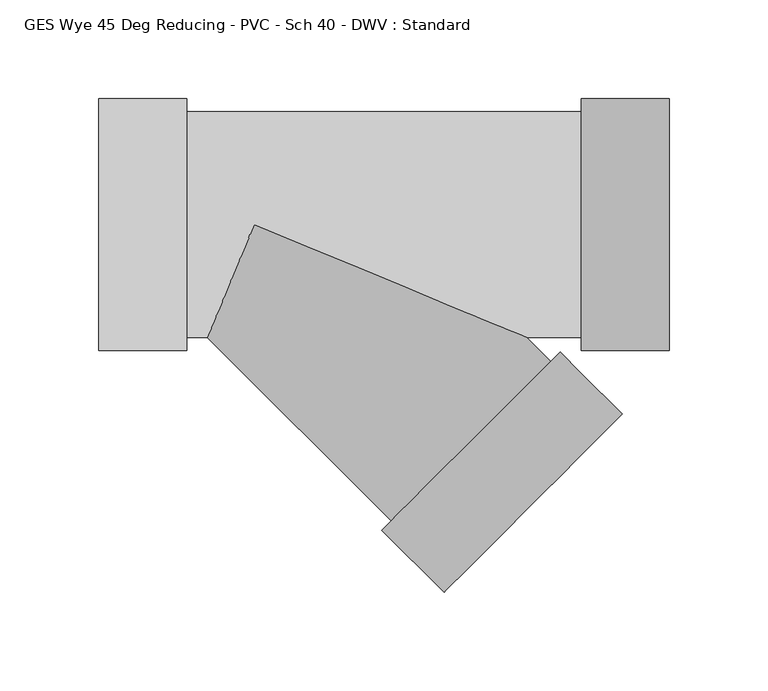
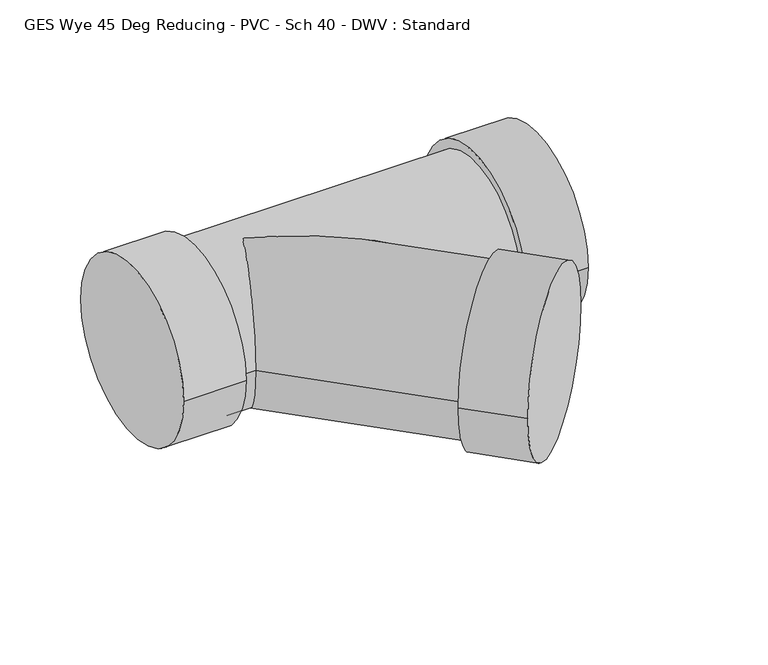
"""IFC4 building model written with IfcOpenShell, lengths in millimetres: pipe fitting geometry, GES Wye 45 Deg Reducing - PVC - Sch 40 - DWV : Standard."""

import ifcopenshell
import ifcopenshell.guid

model = None  # the IFC model being written
_history = None  # IfcOwnerHistory: only IFC2X3 demands one
_inside = {}  # id of a spatial element -> (the spatial element, [elements in it])
_under = {}  # id of a project, library or spatial element -> (it, [spatial elements below it])
_declared = {}  # id of a project -> (the project, [libraries it declares])
_typed = {}  # id of a type object -> (the type object, [elements of that type])
_made_of = {}  # id of a material, layer set ... -> (it, [elements and type objects made of it])


def new_model(schema):
    """Start an empty IFC model of exactly this schema.

    Asked for "IFC4X3", IfcOpenShell would pick the latest addendum, in which some entities
    have other attributes; the version numbers below select the first issue.
    IFC2X3 requires an IfcOwnerHistory on every rooted entity: one is made here for all.
    """
    global model, _history
    if schema == "IFC4X3":
        model = ifcopenshell.file(schema_version=(4, 3, 0, 0))
    else:
        model = ifcopenshell.file(schema=schema)
    _inside.clear()
    _under.clear()
    _declared.clear()
    _typed.clear()
    _made_of.clear()
    _history = None
    if model.schema == "IFC2X3":
        org = make("IfcOrganization", Name="unknown")
        user = make(
            "IfcPersonAndOrganization",
            ThePerson=make("IfcPerson", FamilyName="unknown"),
            TheOrganization=org,
        )
        app = make(
            "IfcApplication",
            ApplicationDeveloper=org,
            Version="unknown",
            ApplicationFullName="unknown",
            ApplicationIdentifier="unknown",
        )
        _history = make(
            "IfcOwnerHistory",
            OwningUser=user,
            OwningApplication=app,
            ChangeAction="ADDED",
            CreationDate=0,
        )
    return model


def make(cls, **values):
    """One entity of the class cls with the attributes given. An attribute that is None is left unset."""
    return model.create_entity(
        cls, **{name: value for name, value in values.items() if value is not None}
    )


def rooted(cls, **values):
    """An entity with a GlobalId (a new one), such as an element, a storey or a relation."""
    return make(cls, GlobalId=ifcopenshell.guid.new(), OwnerHistory=_history, **values)


def si_unit(unit_type, name, prefix=None):
    """IfcSIUnit, for example si_unit("LENGTHUNIT", "METRE", prefix="MILLI")."""
    return make("IfcSIUnit", UnitType=unit_type, Prefix=prefix, Name=name)


def assignment(units):
    """IfcUnitAssignment: the units of a project."""
    return None if units is None else make("IfcUnitAssignment", Units=units)


def point(xyz):
    """IfcCartesianPoint."""
    return None if xyz is None else make("IfcCartesianPoint", Coordinates=xyz)


def direction(xyz):
    """IfcDirection."""
    return None if xyz is None else make("IfcDirection", DirectionRatios=xyz)


def frame(location, z_axis=None, x_axis=None):
    """IfcAxis2Placement3D, a coordinate frame: its origin and axes. An axis left out is left unset."""
    return make(
        "IfcAxis2Placement3D",
        Location=point(location),
        Axis=direction(z_axis),
        RefDirection=direction(x_axis),
    )


def origin():
    """The frame at (0, 0, 0) with its axes left unset."""
    return frame((0.0, 0.0, 0.0))


def place(relative_to, where):
    """IfcLocalPlacement: puts the frame where relative to a parent placement (None: the world)."""
    return make(
        "IfcLocalPlacement", PlacementRelTo=relative_to, RelativePlacement=where
    )


def context(
    kind, dimensions, precision=None, world=None, true_north=None, identifier=None
):
    """IfcGeometricRepresentationContext, for example the 3D "Model" context."""
    return make(
        "IfcGeometricRepresentationContext",
        ContextIdentifier=identifier,
        ContextType=kind,
        CoordinateSpaceDimension=dimensions,
        Precision=precision,
        WorldCoordinateSystem=world,
        TrueNorth=true_north,
    )


def project(units=None, contexts=None):
    """IfcProject with its units and contexts."""
    return rooted(
        "IfcProject",
        Name="project",
        RepresentationContexts=contexts,
        UnitsInContext=assignment(units),
    )


def spatial(cls, under=None, at=None, **own):
    """A site, building, storey or space (cls), placed at a placement, below another one or the project."""
    s = rooted(cls, ObjectPlacement=at, **own)
    if under is not None:
        _under.setdefault(under.id(), (under, []))[1].append(s)
    return s


def circle_curve(where, radius):
    """IfcCircle in the frame where."""
    return make("IfcCircle", Position=where, Radius=radius)


def ellipse_curve(where, semi_axis1, semi_axis2):
    """IfcEllipse in the frame where."""
    return make(
        "IfcEllipse", Position=where, SemiAxis1=semi_axis1, SemiAxis2=semi_axis2
    )


def shape(context_of_items, identifier, shape_type, items):
    """IfcShapeRepresentation: the items that make up one representation, for example the "Body"."""
    return make(
        "IfcShapeRepresentation",
        ContextOfItems=context_of_items,
        RepresentationIdentifier=identifier,
        RepresentationType=shape_type,
        Items=items,
    )


def source(mapping_origin, context_of_items, identifier, shape_type, items):
    """IfcRepresentationMap: a shape defined once, which mapped items show again and again."""
    return make(
        "IfcRepresentationMap",
        MappingOrigin=mapping_origin,
        MappedRepresentation=shape(context_of_items, identifier, shape_type, items),
    )


def transform(
    local_origin,
    x_axis=None,
    y_axis=None,
    z_axis=None,
    scale=None,
    scale2=None,
    scale3=None,
    uniform=True,
):
    """IfcCartesianTransformationOperator3D, or its non-uniform kind. x_axis, y_axis, z_axis: its Axis1, 2, 3."""
    if uniform:
        return make(
            "IfcCartesianTransformationOperator3D",
            Axis1=direction(x_axis),
            Axis2=direction(y_axis),
            LocalOrigin=point(local_origin),
            Scale=scale,
            Axis3=direction(z_axis),
        )
    return make(
        "IfcCartesianTransformationOperator3DnonUniform",
        Axis1=direction(x_axis),
        Axis2=direction(y_axis),
        LocalOrigin=point(local_origin),
        Scale=scale,
        Axis3=direction(z_axis),
        Scale2=scale2,
        Scale3=scale3,
    )


def mapped(mapping_source, mapping_target):
    """IfcMappedItem: shows the shape of a source again, moved by a transform."""
    return make(
        "IfcMappedItem", MappingSource=mapping_source, MappingTarget=mapping_target
    )


def made_of(thing, what):
    """Note that an element or type object is made of a material, layer set ...; save() writes the relation."""
    if what is not None:
        _made_of.setdefault(what.id(), (what, []))[1].append(thing)
    return thing


def element(
    cls,
    number,
    at=None,
    inside=None,
    cuts=None,
    type_object=None,
    material=None,
    context=None,
    identifier="Body",
    shape_type=None,
    held_by="IfcProductDefinitionShape",
    body=None,
    shapes=None,
    **own,
):
    """One element of the class cls, such as IfcWall. Its Tag is "e" and its number.

    at: its placement. inside: the storey or other place that contains it. cuts: it is an
    opening in that element (IfcRelVoidsElement). A single representation is given by context,
    identifier, shape_type and body (its items); several are given by shapes. held_by: the class
    of the entity that holds the representations. save() writes the other relations.
    """
    e = rooted(cls, Tag="e%d" % number, ObjectPlacement=at, **own)
    if body is not None:
        shapes = [shape(context, identifier, shape_type, body)]
    if shapes is not None:
        e.Representation = make(held_by, Representations=shapes)
    if inside is not None:
        _inside.setdefault(inside.id(), (inside, []))[1].append(e)
    if cuts is not None:
        rooted(
            "IfcRelVoidsElement", RelatingBuildingElement=cuts, RelatedOpeningElement=e
        )
    if type_object is not None:
        _typed.setdefault(type_object.id(), (type_object, []))[1].append(e)
    return made_of(e, material)


def aggregate(whole, parts):
    """IfcRelAggregates: a whole, such as a stair, and the parts it consists of."""
    return rooted("IfcRelAggregates", RelatingObject=whole, RelatedObjects=parts)


def save(model, path):
    """Write the relations noted so far, then the file.

    IfcRelAggregates (storeys below a building ...), IfcRelContainedInSpatialStructure (elements
    in a storey), IfcRelDefinesByType, IfcRelAssociatesMaterial and IfcRelDeclares: one each for
    every whole, place, type object, material and project.
    """
    for whole, parts in _under.values():
        aggregate(whole, parts)
    for where, things in _inside.values():
        rooted(
            "IfcRelContainedInSpatialStructure",
            RelatedElements=things,
            RelatingStructure=where,
        )
    for kind, things in _typed.values():
        rooted("IfcRelDefinesByType", RelatedObjects=things, RelatingType=kind)
    for what, things in _made_of.values():
        rooted("IfcRelAssociatesMaterial", RelatedObjects=things, RelatingMaterial=what)
    for by, libraries in _declared.values():
        rooted("IfcRelDeclares", RelatingContext=by, RelatedDefinitions=libraries)
    model.write(path)


def plane_surface(at):
    """IfcPlane: the flat surface through the origin of the frame at, square to its z axis."""
    return make("IfcPlane", Position=at)


def cylinder_surface(at, radius):
    """IfcCylindricalSurface: all points at the distance radius from the z axis of the frame at."""
    return make("IfcCylindricalSurface", Position=at, Radius=radius)


def advanced_brep(points, edges, surfaces, faces):
    """IfcAdvancedBrep: a solid bounded by faces that lie on surfaces and meet in shared edges.

    An edge is (start, end): straight between two places in points (the first is 0);
    or (start, end, curve); or (start, end, curve, False) where it runs against its curve.
    A face is (place in surfaces, loops), or (place, loops, False) where it looks against
    its surface's normal. A loop lists edges by number (the first is 1), with a minus sign
    where the edge is run from its end to its start. The first loop is the outer one.
    """
    corners = [point(p) for p in points]
    vertices = [make("IfcVertexPoint", VertexGeometry=c) for c in corners]
    made = []
    for start, end, *more in edges:
        made.append(
            make(
                "IfcEdgeCurve",
                EdgeStart=vertices[start],
                EdgeEnd=vertices[end],
                EdgeGeometry=more[0] if more else make("IfcPolyline", Points=[corners[start], corners[end]]),
                SameSense=more[1] if len(more) > 1 else True,
            )
        )
    hull = []
    for where, loops, *sense in faces:
        bounds = []
        for j, loop in enumerate(loops):
            ring = [make("IfcOrientedEdge", EdgeElement=made[abs(k) - 1], Orientation=k > 0) for k in loop]
            bounds.append(
                make(
                    "IfcFaceOuterBound" if j == 0 else "IfcFaceBound",
                    Bound=make("IfcEdgeLoop", EdgeList=ring),
                    Orientation=True,
                )
            )
        hull.append(make("IfcAdvancedFace", Bounds=bounds, FaceSurface=surfaces[where], SameSense=sense[0] if sense else True))
    return make("IfcAdvancedBrep", Outer=make("IfcClosedShell", CfsFaces=hull))


def ges_wye_45_deg_reducing_pvc_sch_40_dwv_standard_89ce02b8(model_context):
    return source(origin(), model_context, "Body", "AdvancedBrep", [
        advanced_brep(
        [(-34.2622187, 63.754, 0.0), (-34.2622187, -63.754, 0.0), (-34.2622187, 57.15, 0.0), (-34.2622187, -57.15, 0.0), (-78.7122187, 63.754, 0.0), (-78.7122187, -63.754, 0.0), (165.6159375, -63.754, 0.0), (165.6159375, 63.754, 0.0), (165.6159375, -57.15, 0.0), (165.6159375, 57.15, 0.0), (210.0659375, -63.754, 0.0), (210.0659375, 63.754, 0.0), (137.9783803, -57.15, 0.0), (0.0, 0.0, -57.15), (-23.6712628, -57.15, 0.0), (0.0, 0.0, 57.15), (69.3069943, -150.1224676, 0.0), (150.126783, -69.2976462, 0.0), (64.6374065, -154.7923462, 0.0), (154.7963708, -64.6277676, 0.0), (96.0692815, -186.222264, 0.0), (186.2282458, -96.0576855, 0.0)],
        [
            (0, 1, circle_curve(frame((-34.2622187, 0.0, 0.0), z_axis=(1.0, 0.0, 0.0), x_axis=(0.0, -1.0, 0.0)), 63.754)),
            (1, 0, circle_curve(frame((-34.2622187, 0.0, 0.0), z_axis=(1.0, 0.0, 0.0), x_axis=(0.0, -1.0, 0.0)), 63.754)),
            (2, 3, circle_curve(frame((-34.2622187, 0.0, 0.0), z_axis=(-1.0, 0.0, 0.0), x_axis=(0.0, 0.0, -1.0)), 57.15)),
            (3, 2, circle_curve(frame((-34.2622187, 0.0, 0.0), z_axis=(-1.0, 0.0, 0.0), x_axis=(0.0, 0.0, 1.0)), 57.15)),
            (4, 5, circle_curve(frame((-78.7122187, 0.0, 0.0), z_axis=(-1.0, 0.0, 0.0), x_axis=(0.0, -1.0, 0.0)), 63.754)),
            (5, 4, circle_curve(frame((-78.7122187, 0.0, 0.0), z_axis=(-1.0, 0.0, 0.0), x_axis=(0.0, -1.0, 0.0)), 63.754)),
            (0, 4),
            (5, 1),
            (6, 7, circle_curve(frame((165.6159375, 0.0, 0.0), z_axis=(-1.0, 0.0, 0.0), x_axis=(0.0, 1.0, 0.0)), 63.754)),
            (7, 6, circle_curve(frame((165.6159375, 0.0, 0.0), z_axis=(-1.0, 0.0, 0.0), x_axis=(0.0, 1.0, 0.0)), 63.754)),
            (8, 9, circle_curve(frame((165.6159375, 0.0, 0.0), z_axis=(1.0, 0.0, 0.0), x_axis=(0.0, 0.0, -1.0)), 57.15)),
            (9, 8, circle_curve(frame((165.6159375, 0.0, 0.0), z_axis=(1.0, 0.0, 0.0), x_axis=(0.0, 0.0, 1.0)), 57.15)),
            (10, 11, circle_curve(frame((210.0659375, 0.0, 0.0), z_axis=(1.0, 0.0, 0.0), x_axis=(0.0, 1.0, 0.0)), 63.754)),
            (11, 10, circle_curve(frame((210.0659375, 0.0, 0.0), z_axis=(1.0, 0.0, 0.0), x_axis=(0.0, 1.0, 0.0)), 63.754)),
            (6, 10),
            (11, 7),
            (2, 9),
            (8, 12),
            (12, 13, ellipse_curve(frame((0.0, 0.0, 0.0), z_axis=(0.3826690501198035, 0.9238854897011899, 0.0), x_axis=(0.9238854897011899, -0.38266905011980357, 0.0)), 149.3457597, 57.15)),
            (13, 14, ellipse_curve(frame((0.0, 0.0, 0.0), z_axis=(-0.9238854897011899, 0.38266905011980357, 0.0), x_axis=(0.3826690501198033, 0.92388548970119, 0.0)), 61.8583154, 57.15)),
            (14, 3),
            (14, 15, ellipse_curve(frame((0.0, 0.0, 0.0), z_axis=(-0.9238854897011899, 0.38266905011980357, 0.0), x_axis=(0.3826690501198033, 0.92388548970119, 0.0)), 61.8583154, 57.15)),
            (15, 12, ellipse_curve(frame((0.0, 0.0, 0.0), z_axis=(0.3826690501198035, 0.9238854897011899, 0.0), x_axis=(0.9238854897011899, -0.38266905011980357, 0.0)), 149.3457597, 57.15)),
            (14, 16),
            (16, 17, circle_curve(frame((109.7168886, -109.7100569, 0.0), z_axis=(-0.7071287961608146, 0.7070847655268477, 0.0), x_axis=(0.7070847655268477, 0.7071287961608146, 0.0)), 57.15)),
            (17, 12),
            (17, 16, circle_curve(frame((109.7168886, -109.7100569, 0.0), z_axis=(-0.7071287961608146, 0.7070847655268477, 0.0), x_axis=(0.7070847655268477, 0.7071287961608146, 0.0)), 57.15)),
            (18, 19, circle_curve(frame((109.7168886, -109.7100569, 0.0), z_axis=(-0.7071287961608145, 0.707084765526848, 0.0), x_axis=(0.707084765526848, 0.7071287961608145, 0.0)), 63.754)),
            (19, 18, circle_curve(frame((109.7168886, -109.7100569, 0.0), z_axis=(-0.7071287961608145, 0.707084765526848, 0.0), x_axis=(0.707084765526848, 0.7071287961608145, 0.0)), 63.754)),
            (20, 21, circle_curve(frame((141.1487636, -141.1399747, 0.0), z_axis=(0.7071287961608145, -0.707084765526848, 0.0), x_axis=(0.707084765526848, 0.7071287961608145, 0.0)), 63.754)),
            (21, 20, circle_curve(frame((141.1487636, -141.1399747, 0.0), z_axis=(0.7071287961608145, -0.707084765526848, 0.0), x_axis=(0.707084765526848, 0.7071287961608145, 0.0)), 63.754)),
            (18, 20),
            (21, 19),
        ],
        [
            plane_surface(frame((-34.2622187, 0.0, 0.0), z_axis=(1.0, 0.0, 0.0), x_axis=(0.0, 0.0, 1.0))),
            plane_surface(frame((-78.7122187, 0.0, 0.0), z_axis=(-1.0, 0.0, 0.0), x_axis=(0.0, 0.0, 1.0))),
            cylinder_surface(frame((-34.2622187, 0.0, 0.0), z_axis=(1.0, 0.0, 0.0), x_axis=(0.0, -1.0, 0.0)), 63.754),
            plane_surface(frame((165.6159375, 0.0, 0.0), z_axis=(-1.0, 0.0, 0.0), x_axis=(0.0, 0.0, 1.0))),
            plane_surface(frame((210.0659375, 0.0, 0.0), z_axis=(1.0, 0.0, 0.0), x_axis=(0.0, 0.0, 1.0))),
            cylinder_surface(frame((165.6159375, 0.0, 0.0), z_axis=(-1.0, 0.0, 0.0), x_axis=(0.0, 1.0, 0.0)), 63.754),
            cylinder_surface(frame((-34.2622187, 0.0, 0.0), z_axis=(1.0, 0.0, 0.0), x_axis=(0.0, 0.0, -1.0)), 57.15),
            cylinder_surface(frame((-34.2622187, 0.0, 0.0), z_axis=(1.0, 0.0, 0.0), x_axis=(0.0, 0.0, 1.0)), 57.15),
            cylinder_surface(frame((0.0, 0.0, 0.0), z_axis=(-0.7071287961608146, 0.7070847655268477, 0.0), x_axis=(0.7070847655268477, 0.7071287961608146, 0.0)), 57.15),
            plane_surface(frame((109.7168886, -109.7100569, 0.0), z_axis=(-0.7071287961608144, 0.7070847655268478, 0.0), x_axis=(0.0, 0.0, 1.0))),
            plane_surface(frame((141.1487636, -141.1399747, 0.0), z_axis=(0.7071287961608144, -0.7070847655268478, 0.0), x_axis=(0.0, 0.0, 1.0))),
            cylinder_surface(frame((109.7168886, -109.7100569, 0.0), z_axis=(-0.7071287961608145, 0.707084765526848, 0.0), x_axis=(0.707084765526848, 0.7071287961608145, 0.0)), 63.754),
        ],
        [
            (0, [[1, 2], [3, 4]]),
            (1, [[5, 6]]),
            (2, [[-1, 7, -6, 8]]),
            (2, [[-2, -8, -5, -7]]),
            (3, [[9, 10], [11, 12]]),
            (4, [[13, 14]]),
            (5, [[-9, 15, -14, 16]]),
            (5, [[-10, -16, -13, -15]]),
            (6, [[17, -11, 18, 19, 20, 21, -3]]),
            (7, [[-17, -4, -21, 22, 23, -18, -12]]),
            (8, [[24, 25, 26, -23, -22]]),
            (8, [[-24, -20, -19, -26, 27]]),
            (9, [[28, 29], [-25, -27]]),
            (10, [[30, 31]]),
            (11, [[-28, 32, -31, 33]]),
            (11, [[-29, -33, -30, -32]]),
        ],
    ),
    ])


if __name__ == "__main__":
    model = new_model("IFC4")
    model_context = context("Model", 3, world=origin())
    ifc_project = project(units=[si_unit("LENGTHUNIT", "METRE", prefix="MILLI")], contexts=[model_context])
    site = spatial("IfcSite", under=ifc_project)
    building = spatial("IfcBuilding", under=site)
    placement = place(None, origin())
    ges_wye_45_deg_reducing_pvc_sch_40_dwv_standard_shape = ges_wye_45_deg_reducing_pvc_sch_40_dwv_standard_89ce02b8(model_context)
    element("IfcPipeFitting", 1, ObjectType="GES Wye 45 Deg Reducing - PVC - Sch 40 - DWV : Standard", at=placement, inside=building, context=model_context, shape_type="MappedRepresentation", body=[
        mapped(ges_wye_45_deg_reducing_pvc_sch_40_dwv_standard_shape, transform((0.0, 0.0, 0.0), x_axis=(1.0, 0.0, 0.0), y_axis=(0.0, 1.0, 0.0), z_axis=(0.0, 0.0, 1.0))),
    ])
    save(model, "model.ifc")
